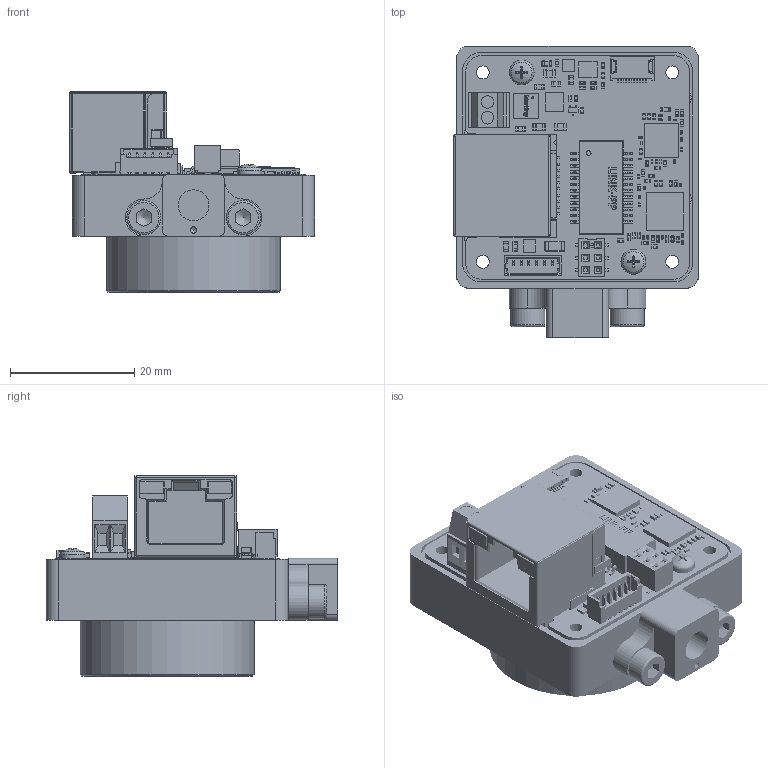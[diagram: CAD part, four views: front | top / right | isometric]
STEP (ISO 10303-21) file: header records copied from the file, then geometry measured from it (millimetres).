
FILE_DESCRIPTION(/* description */ (''),/* implementation_level */ '2;1');
FILE_NAME(/* name */ 'KSM_308-24-01-00-00_ZB C-MountKamera_GigE-4SB.stp',/* time_stamp */ '2024-09-20T14:03:14+02:00',/* author */ ('khw'),/* organization */ ('TIS/ Germany'),/* preprocessor_version */ 'ST-DEVELOPER v20',/* originating_system */ 'Autodesk Inventor 2025',/* authorisation */ '520025 mm^3');
FILE_SCHEMA (('AUTOMOTIVE_DESIGN { 1 0 10303 214 3 1 1 }'));
Length unit declared in the file: millimetre
Products named in the file (4): KSM_308-24-01-00-00_ZB C-MountKamera_GigE-4SB; 2_308-24-01-00-00_ZB C-MountKamera_GigE-4SB; TripodAdapter 14-20-UNC; Zylinderschraube M3x6
Assembly tree (4 placements, depth 2):
  KSM_308-24-01-00-00_ZB C-MountKamera_GigE-4SB
    2_308-24-01-00-00_ZB C-MountKamera_GigE-4SB
    TripodAdapter 14-20-UNC
    Zylinderschraube M3x6  x2
Bounding box: 39.49 x 47 x 32.26 mm (x, y, z)
Volume: 15029.7 mm3; surface area: 16203.6 mm2
Topology: 10 solids, 13 shells, 10401 faces, 24880 edges, 13575 vertices
Faces by surface type: plane 4337, cylinder 4061, torus 968, sphere 962, cone 39, bspline 34
Full cylindrical faces by diameter (mm): 0.3 x1, 0.5 x6, 0.739 x1, 1 x1, 1.05 x2, 1.2 x2, 1.567 x2, 1.783 x2, 2 x2, 2.032 x2, 2.1 x6, 2.459 x8, 3 x2, 3.2 x2, 4.978 x1, 5.5 x2, 24.536 x1, 28 x1
Entity records: 298745 total; most frequent: DIRECTION 52789, CARTESIAN_POINT 49456, ORIENTED_EDGE 47748, EDGE_CURVE 23874, AXIS2_PLACEMENT_3D 18674, LINE 15441, VECTOR 15441, VERTEX_POINT 13551
